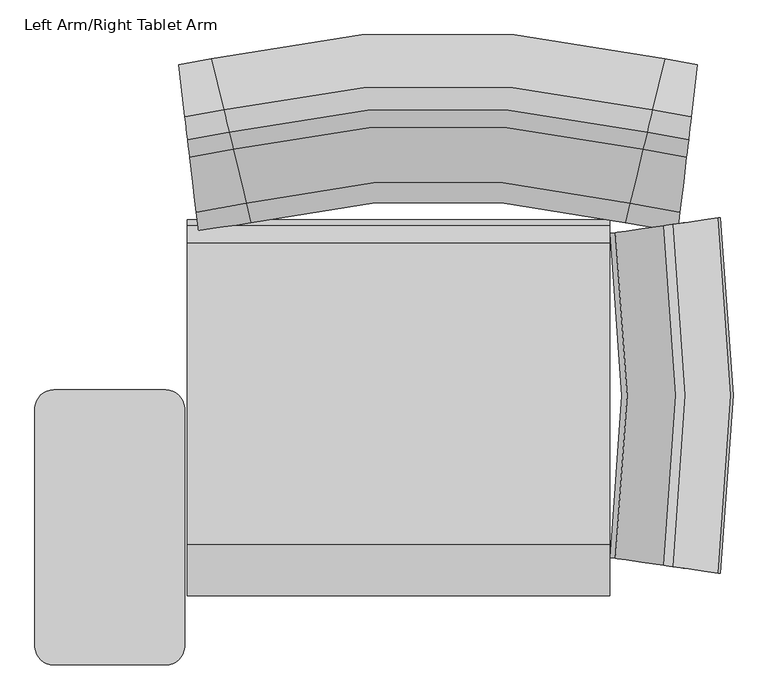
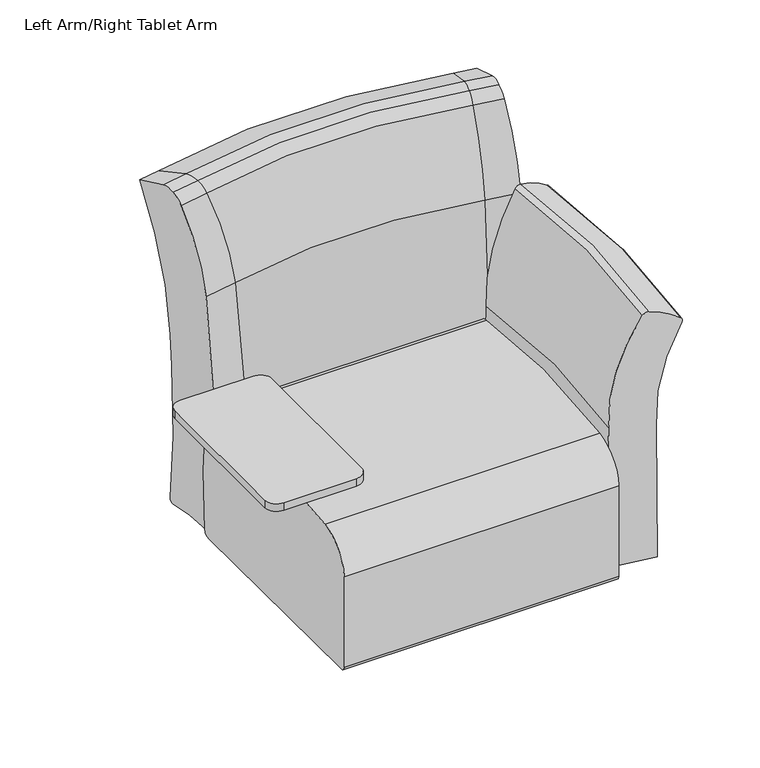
"""IFC4 building model written with IfcOpenShell, lengths in millimetres: furniture geometry, Steelcase Turnstone - Jenny - Seating - Lounge Chair : Left Arm/Right Tablet Arm."""

from ifc_helpers import new_model, si_unit, point, frame, frame_2d, origin, place, context, project, spatial, polyline, circle_curve, ellipse_curve, trimmed, segment, composite_curve, outline, extrude, source, transform, mapped, element, save
from ifc_brep_helpers import plane_surface, cylinder_surface, revolved_surface, advanced_brep


def left_arm_right_tablet_arm_aeaf191a(model_context):
    return source(origin(), model_context, "Body", "SolidModel", [
        advanced_brep(
        [(-554.4670505, 297.2440659, 612.9965223), (-581.7206583, 271.9208046, 612.9965223), (-581.7206583, -74.3072853, 612.9965223), (-554.4670505, -99.6305466, 612.9965223), (-393.0859646, -99.6305466, 612.9965223), (-365.8323568, -74.3072853, 612.9965223), (-365.8267014, 271.8444534, 612.9965223), (-393.0859646, 297.2440659, 612.9965223), (-554.4670505, 297.2446472, 595.5042034), (-393.0859646, 297.2446472, 595.5042034), (-365.8323568, 271.9208046, 595.5042034), (-365.8323568, -74.3072853, 595.5042034), (-393.0859646, -99.6305466, 595.5042034), (-554.4670505, -99.6305466, 595.5042034), (-581.7206583, -74.3072853, 595.5042034), (-581.7263138, 271.8444534, 595.5042034)],
        [
            (0, 1, circle_curve(frame((-554.4670505, 269.9168846, 612.9965223), z_axis=(0.0, 0.0, 1.0), x_axis=(0.0, 1.0, 0.0)), 27.3271812)),
            (1, 2, circle_curve(frame((1772.6599394, 98.8070503, 612.9965223), z_axis=(0.0, 0.0, 1.0), x_axis=(0.0, 1.0, 0.0)), 2360.736447)),
            (2, 3, circle_curve(frame((-554.4670505, -72.3033653, 612.9965223), z_axis=(0.0, 0.0, 1.0), x_axis=(0.0, 1.0, 0.0)), 27.3271812)),
            (3, 4),
            (4, 5, circle_curve(frame((-393.0859646, -72.3033653, 612.9965223), z_axis=(0.0, 0.0, 1.0), x_axis=(0.0, 1.0, 0.0)), 27.3271812)),
            (5, 6, circle_curve(frame((-2720.2129546, 98.8070503, 612.9965223), z_axis=(0.0, 0.0, 1.0), x_axis=(0.0, 1.0, 0.0)), 2360.736447)),
            (6, 7, circle_curve(frame((-393.0859646, 269.9168846, 612.9965223), z_axis=(0.0, 0.0, 1.0), x_axis=(0.0, 1.0, 0.0)), 27.3271812)),
            (7, 0),
            (8, 9),
            (9, 10, circle_curve(frame((-393.0859646, 269.9168846, 595.5042034), z_axis=(0.0, 0.0, -1.0), x_axis=(0.0, 1.0, 0.0)), 27.3271812)),
            (10, 11, circle_curve(frame((-2720.2129546, 98.8070503, 595.5042034), z_axis=(0.0, 0.0, -1.0), x_axis=(0.0, 1.0, 0.0)), 2360.736447)),
            (11, 12, circle_curve(frame((-393.0859646, -72.3033653, 595.5042034), z_axis=(0.0, 0.0, -1.0), x_axis=(0.0, 1.0, 0.0)), 27.3271812)),
            (12, 13),
            (13, 14, circle_curve(frame((-554.4670505, -72.3033653, 595.5042034), z_axis=(0.0, 0.0, -1.0), x_axis=(0.0, 1.0, 0.0)), 27.3271812)),
            (14, 15, circle_curve(frame((1772.6599394, 98.8070503, 595.5042034), z_axis=(0.0, 0.0, -1.0), x_axis=(0.0, 1.0, 0.0)), 2360.736447)),
            (15, 8, circle_curve(frame((-554.4670505, 269.9168846, 595.5042034), z_axis=(0.0, 0.0, -1.0), x_axis=(0.0, 1.0, 0.0)), 27.3271812)),
            (0, 8),
            (15, 1),
            (14, 2),
            (13, 3),
            (12, 4),
            (11, 5),
            (10, 6),
            (9, 7),
        ],
        [
            plane_surface(frame((-554.4670505, 297.2440659, 612.9965223), z_axis=(0.0, 0.0, 1.0), x_axis=(-1.0, 0.0, 0.0))),
            plane_surface(frame((-554.4670505, 297.2440659, 595.5042034), z_axis=(0.0, 0.0, -1.0), x_axis=(1.0, 0.0, 0.0))),
            cylinder_surface(frame((-554.4670505, 269.9168846, 595.5042034), z_axis=(0.0, 0.0, 1.0), x_axis=(0.0, 1.0, 0.0)), 27.3271812),
            cylinder_surface(frame((1772.6599394, 98.8070503, 595.5042034), z_axis=(0.0, 0.0, 1.0), x_axis=(0.0, 1.0, 0.0)), 2360.736447),
            cylinder_surface(frame((-554.4670505, -72.3033653, 595.5042034), z_axis=(0.0, 0.0, 1.0), x_axis=(0.0, 1.0, 0.0)), 27.3271812),
            plane_surface(frame((-554.4670505, -99.6305466, 612.9965223), z_axis=(0.0, -1.0, 0.0), x_axis=(0.0, 0.0, -1.0))),
            cylinder_surface(frame((-393.0859646, -72.3033653, 595.5042034), z_axis=(0.0, 0.0, 1.0), x_axis=(0.0, 1.0, 0.0)), 27.3271812),
            cylinder_surface(frame((-2720.2129546, 98.8070503, 595.5042034), z_axis=(0.0, 0.0, 1.0), x_axis=(0.0, 1.0, 0.0)), 2360.736447),
            cylinder_surface(frame((-393.0859646, 269.9168846, 595.5042034), z_axis=(0.0, 0.0, 1.0), x_axis=(0.0, 1.0, 0.0)), 27.3271812),
            plane_surface(frame((-393.0859646, 297.2446472, 612.9965223), z_axis=(0.0, 1.0, 0.0), x_axis=(0.0, 0.0, -1.0))),
        ],
        [
            (0, [[1, 2, 3, 4, 5, 6, 7, 8]]),
            (1, [[9, 10, 11, 12, 13, 14, 15, 16]]),
            (2, [[-1, 17, -16, 18]]),
            (3, [[-2, -18, -15, 19]]),
            (4, [[-3, -19, -14, 20]]),
            (5, [[-4, -20, -13, 21]]),
            (6, [[-5, -21, -12, 22]]),
            (7, [[-6, -22, -11, 23]]),
            (8, [[-7, -23, -10, 24]]),
            (9, [[-8, -24, -9, -17]]),
        ],
    ),
        extrude(outline(polyline([(-374.3402751, 106.7260437), (-487.7744904, 106.7260437), (-487.7744904, 233.7264313), (-374.3402751, 233.7264313), (-374.3402751, 106.7260437)])), frame((0.0, 0.0, 592.311266), z_axis=(0.0, 0.0, 1.0), x_axis=(1.0, 0.0, 0.0)), (0.0, 0.0, 1.0), 3.1929374),
        advanced_brep(
        [(338.5098126, 42.3528445, 662.4789574), (325.4819287, 44.2201227, 657.247673), (255.8979101, 54.1935554, 412.3486316), (248.568241, 55.2441122, 105.3934367), (268.92915, 52.3257962, 83.0261095), (356.1641561, 39.8224588, 83.0261095), (353.9234318, 40.1436204, 393.5179242), (406.2890311, 32.6380926, 620.5062548), (403.9913356, 32.9674199, 631.6323761), (338.5098126, 536.0945997, 662.4789574), (403.9913356, 545.4800243, 631.6323761), (406.2890311, 545.8093515, 620.5062548), (353.9234318, 538.3038238, 393.5179242), (356.1641561, 538.6249854, 83.0261095), (268.92915, 526.121648, 83.0261095), (248.568241, 523.203332, 105.3934367), (255.8979101, 524.2538887, 412.3486316), (325.4819287, 534.2273214, 657.247673)],
        [
            (0, 1, circle_curve(frame((335.7972968, 42.7416276, 650.2018378), z_axis=(-0.1418794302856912, -0.989883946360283, 0.0), x_axis=(-0.989883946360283, 0.1418794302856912, 0.0)), 12.5792115)),
            (1, 2, circle_curve(frame((662.6674144, -4.1084564, 426.9356418), z_axis=(-0.1418794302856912, -0.989883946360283, 0.0), x_axis=(-0.989883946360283, 0.1418794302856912, 0.0)), 411.1852807)),
            (2, 3, circle_curve(frame((-2293.785101, 419.6379839, 320.9153954), z_axis=(0.1418794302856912, 0.989883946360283, 0.0), x_axis=(-0.989883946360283, 0.1418794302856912, 0.0)), 2577.3616595)),
            (3, 4, circle_curve(frame((268.92915, 52.3257962, 103.6673891), z_axis=(-0.1418794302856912, -0.989883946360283, 0.0), x_axis=(-0.989883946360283, 0.1418794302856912, 0.0)), 20.6412796)),
            (4, 5),
            (5, 6, circle_curve(frame((-3376.7467903, 574.8581873, 210.7875713), z_axis=(-0.1418794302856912, -0.989883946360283, 0.0), x_axis=(-0.989883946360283, 0.1418794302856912, 0.0)), 3773.2228077)),
            (6, 7, circle_curve(frame((774.6383733, -20.157182, 414.1247817), z_axis=(0.1418794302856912, 0.989883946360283, 0.0), x_axis=(-0.989883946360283, 0.1418794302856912, 0.0)), 425.5136794)),
            (7, 8, circle_curve(frame((398.7600293, 33.7172196, 624.7246592), z_axis=(-0.1418794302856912, -0.989883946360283, 0.0), x_axis=(-0.989883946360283, 0.1418794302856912, 0.0)), 8.6974317)),
            (8, 0, circle_curve(frame((301.9143064, 47.5980549, 496.8440116), z_axis=(-0.1418794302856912, -0.989883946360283, 0.0), x_axis=(-0.989883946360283, 0.1418794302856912, 0.0)), 169.710573)),
            (9, 10, circle_curve(frame((301.9143064, 530.8493893, 496.8440116), z_axis=(-0.14187943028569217, 0.9898839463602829, 0.0), x_axis=(-0.9898839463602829, -0.14187943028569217, 0.0)), 169.710573)),
            (10, 11, circle_curve(frame((398.7600293, 544.7302245, 624.7246592), z_axis=(-0.14187943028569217, 0.9898839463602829, 0.0), x_axis=(-0.9898839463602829, -0.14187943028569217, 0.0)), 8.6974317)),
            (11, 12, circle_curve(frame((774.6383733, 598.6046262, 414.1247817), z_axis=(0.14187943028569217, -0.9898839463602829, 0.0), x_axis=(-0.9898839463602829, -0.14187943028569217, 0.0)), 425.5136794)),
            (12, 13, circle_curve(frame((-3376.7467903, 3.5892569, 210.7875713), z_axis=(-0.14187943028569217, 0.9898839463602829, 0.0), x_axis=(-0.9898839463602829, -0.14187943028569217, 0.0)), 3773.2228077)),
            (13, 14),
            (14, 15, circle_curve(frame((268.92915, 526.121648, 103.6673891), z_axis=(-0.14187943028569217, 0.9898839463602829, 0.0), x_axis=(-0.9898839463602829, -0.14187943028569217, 0.0)), 20.6412796)),
            (15, 16, circle_curve(frame((-2293.785101, 158.8094603, 320.9153954), z_axis=(0.14187943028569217, -0.9898839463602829, 0.0), x_axis=(-0.9898839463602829, -0.14187943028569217, 0.0)), 2577.3616595)),
            (16, 17, circle_curve(frame((662.6674144, 582.5559005, 426.9356418), z_axis=(-0.14187943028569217, 0.9898839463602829, 0.0), x_axis=(-0.9898839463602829, -0.14187943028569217, 0.0)), 411.1852807)),
            (17, 9, circle_curve(frame((335.7972968, 535.7058165, 650.2018378), z_axis=(-0.14187943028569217, 0.9898839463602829, 0.0), x_axis=(-0.9898839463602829, -0.14187943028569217, 0.0)), 12.5792115)),
            (17, 1, circle_curve(frame((-1383.8929209, 289.2237221, 657.247673), z_axis=(0.0, 0.0, -1.0), x_axis=(0.989883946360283, -0.1418794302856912, 0.0)), 1726.8436929)),
            (0, 9, circle_curve(frame((-1383.8929209, 289.2237221, 662.4789574), z_axis=(0.0, 0.0, 1.0), x_axis=(0.989883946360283, -0.1418794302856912, 0.0)), 1740.0047145)),
            (16, 2, circle_curve(frame((-1383.8929209, 289.2237221, 412.3486316), z_axis=(0.0, 0.0, -1.0), x_axis=(0.989883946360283, -0.1418794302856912, 0.0)), 1656.5485651)),
            (15, 3, circle_curve(frame((-1383.8929209, 289.2237221, 105.3934367), z_axis=(0.0, 0.0, -1.0), x_axis=(0.989883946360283, -0.1418794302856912, 0.0)), 1649.1439909)),
            (14, 4, circle_curve(frame((-1383.8929209, 289.2237221, 83.0261095), z_axis=(0.0, 0.0, -1.0), x_axis=(0.989883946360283, -0.1418794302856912, 0.0)), 1669.7129769)),
            (13, 5, circle_curve(frame((-1383.8929209, 289.2237221, 83.0261095), z_axis=(0.0, 0.0, -1.0), x_axis=(0.989883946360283, -0.1418794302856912, 0.0)), 1757.8394754)),
            (12, 6, circle_curve(frame((-1383.8929209, 289.2237221, 393.5179242), z_axis=(0.0, 0.0, -1.0), x_axis=(0.989883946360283, -0.1418794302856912, 0.0)), 1755.5758521)),
            (11, 7, circle_curve(frame((-1383.8929209, 289.2237221, 620.5062548), z_axis=(0.0, 0.0, -1.0), x_axis=(0.989883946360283, -0.1418794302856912, 0.0)), 1808.4765982)),
            (10, 8, circle_curve(frame((-1383.8929209, 289.2237221, 631.6323761), z_axis=(0.0, 0.0, -1.0), x_axis=(0.989883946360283, -0.1418794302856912, 0.0)), 1806.1554216)),
        ],
        [
            plane_surface(frame((321.793924, 44.7487221, 0.0), z_axis=(-0.14187943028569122, -0.9898839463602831, 0.0), x_axis=(0.0, 0.0, 1.0))),
            plane_surface(frame((321.793924, 533.6987221, 0.0), z_axis=(-0.1418794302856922, 0.9898839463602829, 0.0), x_axis=(0.0, 0.0, 1.0))),
            revolved_surface(trimmed(ellipse_curve(frame((335.7972968, 42.7416276, 650.2018378), z_axis=(-0.1418794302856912, -0.989883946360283, 0.0), x_axis=(-0.989883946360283, 0.1418794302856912, 0.0)), 12.5792115, 12.5792115), [point((338.5098126, 42.3528445, 662.4789574))], [point((325.4819287, 44.2201227, 657.247673))], True, "CARTESIAN"), (-1383.8929209, 289.2237221, 0.0), (0.0, 0.0, 1.0)),
            revolved_surface(trimmed(ellipse_curve(frame((662.6674144, -4.1084564, 426.9356418), z_axis=(-0.1418794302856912, -0.989883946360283, 0.0), x_axis=(-0.989883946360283, 0.1418794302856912, 0.0)), 411.1852807, 411.1852807), [point((325.4819287, 44.2201227, 657.247673))], [point((255.8979101, 54.1935554, 412.3486316))], True, "CARTESIAN"), (-1383.8929209, 289.2237221, 0.0), (0.0, 0.0, 1.0)),
            revolved_surface(trimmed(ellipse_curve(frame((-2293.785101, 419.6379839, 320.9153954), z_axis=(0.1418794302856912, 0.989883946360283, 0.0), x_axis=(-0.989883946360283, 0.1418794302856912, 0.0)), 2577.3616595, 2577.3616595), [point((255.8979101, 54.1935554, 412.3486316))], [point((248.568241, 55.2441122, 105.3934367))], True, "CARTESIAN"), (-1383.8929209, 289.2237221, 0.0), (0.0, 0.0, 1.0)),
            revolved_surface(trimmed(ellipse_curve(frame((268.92915, 52.3257962, 103.6673891), z_axis=(-0.1418794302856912, -0.989883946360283, 0.0), x_axis=(-0.989883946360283, 0.1418794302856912, 0.0)), 20.6412796, 20.6412796), [point((248.568241, 55.2441122, 105.3934367))], [point((268.92915, 52.3257962, 83.0261095))], True, "CARTESIAN"), (-1383.8929209, 289.2237221, 0.0), (0.0, 0.0, 1.0)),
            plane_surface(frame((-1383.8929209, 289.2237221, 83.0261095), z_axis=(0.0, 0.0, -1.0000000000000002), x_axis=(0.9898839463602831, -0.14187943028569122, 0.0))),
            revolved_surface(trimmed(ellipse_curve(frame((-3376.7467903, 574.8581873, 210.7875713), z_axis=(-0.1418794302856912, -0.989883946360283, 0.0), x_axis=(-0.989883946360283, 0.1418794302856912, 0.0)), 3773.2228077, 3773.2228077), [point((356.1641561, 39.8224588, 83.0261095))], [point((353.9234318, 40.1436204, 393.5179242))], True, "CARTESIAN"), (-1383.8929209, 289.2237221, 0.0), (0.0, 0.0, 1.0)),
            revolved_surface(trimmed(ellipse_curve(frame((774.6383733, -20.157182, 414.1247817), z_axis=(0.1418794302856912, 0.989883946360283, 0.0), x_axis=(-0.989883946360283, 0.1418794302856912, 0.0)), 425.5136794, 425.5136794), [point((353.9234318, 40.1436204, 393.5179242))], [point((406.2890311, 32.6380926, 620.5062548))], True, "CARTESIAN"), (-1383.8929209, 289.2237221, 0.0), (0.0, 0.0, 1.0)),
            revolved_surface(trimmed(ellipse_curve(frame((398.7600293, 33.7172196, 624.7246592), z_axis=(-0.1418794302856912, -0.989883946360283, 0.0), x_axis=(-0.989883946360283, 0.1418794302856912, 0.0)), 8.6974317, 8.6974317), [point((406.2890311, 32.6380926, 620.5062548))], [point((403.9913356, 32.9674199, 631.6323761))], True, "CARTESIAN"), (-1383.8929209, 289.2237221, 0.0), (0.0, 0.0, 1.0)),
            revolved_surface(trimmed(ellipse_curve(frame((301.9143064, 47.5980549, 496.8440116), z_axis=(-0.1418794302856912, -0.989883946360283, 0.0), x_axis=(-0.989883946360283, 0.1418794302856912, 0.0)), 169.710573, 169.710573), [point((403.9913356, 32.9674199, 631.6323761))], [point((338.5098126, 42.3528445, 662.4789574))], True, "CARTESIAN"), (-1383.8929209, 289.2237221, 0.0), (0.0, 0.0, 1.0)),
        ],
        [
            (0, [[1, 2, 3, 4, 5, 6, 7, 8, 9]]),
            (1, [[10, 11, 12, 13, 14, 15, 16, 17, 18]]),
            (2, [[19, -1, 20, -18]]),
            (3, [[21, -2, -19, -17]]),
            (4, [[22, -3, -21, -16]]),
            (5, [[23, -4, -22, -15]]),
            (6, [[24, -5, -23, -14]]),
            (7, [[25, -6, -24, -13]]),
            (8, [[26, -7, -25, -12]]),
            (9, [[27, -8, -26, -11]]),
            (10, [[-20, -9, -27, -10]]),
        ],
    ),
        extrude(outline(composite_curve([segment(trimmed(circle_curve(frame_2d((295.9448235, -1001.9734672)), 1409.8455938), [point((73.6948235, 390.2440215))], [point((509.3958902, 391.6201753))], False, "CARTESIAN"), True, "CONTINUOUS"), segment(trimmed(circle_curve(frame_2d((504.9855283, 362.825509)), 29.1304669), [point((509.3958902, 391.6201753))], [point((533.8942756, 366.4127691))], False, "CARTESIAN"), True, "CONTINUOUS"), segment(trimmed(circle_curve(frame_2d((-629.8512072, 222.0046519)), 1172.6709909), [point((533.8942756, 366.4127691))], [point((536.0042378, 95.7575362))], False, "CARTESIAN"), True, "CONTINUOUS"), segment(trimmed(circle_curve(frame_2d((523.173628, 97.1469259)), 12.9056171), [point((536.0042378, 95.7575362))], [point((523.4804674, 84.244957))], False, "CARTESIAN"), True, "CONTINUOUS"), segment(trimmed(circle_curve(frame_2d((320.8347088, 8605.0850806)), 8523.249481), [point((523.4804674, 84.244957))], [point((12.6556229, 87.4089088))], False, "CARTESIAN"), True, "CONTINUOUS"), segment(trimmed(circle_curve(frame_2d((13.132469, 100.5883266)), 13.1880413), [point((12.6556229, 87.4089088))], [point((0.0, 99.3789084))], False, "CARTESIAN"), True, "CONTINUOUS"), segment(trimmed(circle_curve(frame_2d((1151.5533041, 205.4297595)), 1156.4263034), [point((0.0, 99.3789084))], [point((0.0, 311.4806107))], False, "CARTESIAN"), True, "CONTINUOUS"), segment(trimmed(circle_curve(frame_2d((87.555619, 303.4172862)), 87.9261259), [point((0.0, 311.4806107))], [point((73.6948235, 390.2440215))], False, "CARTESIAN"), True, "CONTINUOUS")], self_intersect=False)), frame((-361.95, 0.0, 0.0), z_axis=(1.0, 0.0, 0.0), x_axis=(0.0, 1.0, 0.0)), (0.0, 0.0, 1.0), 609.6),
        advanced_brep(
        [(-365.286616, 691.4565759, 813.9027777), (-374.1581434, 766.5452606, 782.2939395), (-362.648411, 669.1267858, 474.5451921), (-361.9534589, 663.244705, 404.1661408), (-361.3770167, 658.3656933, 241.4197302), (-362.6146384, 668.8409343, 92.210125), (-361.3954165, 658.5214293, 82.3084573), (-349.0009614, 553.6146536, 81.9987921), (-346.7002803, 534.1416683, 97.0710008), (-349.0142051, 553.7267481, 627.8736036), (-358.4008193, 633.1751322, 797.7221008), (-361.3730638, 658.3322355, 814.4538477), (-326.9667617, 774.979302, 782.2939395), (-309.2801577, 701.4660474, 813.9027777), (-304.020535, 679.604757, 474.5451921), (-302.6350528, 673.8460877, 404.1661408), (-301.4858364, 669.0694421, 241.4197302), (-303.9532047, 679.3249029, 92.210125), (-301.5225189, 669.2219106, 82.3084573), (-276.8124763, 566.5161761, 81.9987921), (-272.2257535, 547.451752, 97.0710008), (-276.8388793, 566.6259188, 627.8736036), (-295.5523794, 644.4074023, 797.7221008), (-301.4779556, 669.0366863, 814.4538477), (326.9667617, 774.979302, 782.2939395), (309.2801577, 701.4660474, 813.9027777), (304.020535, 679.604757, 474.5451921), (302.6350528, 673.8460877, 404.1661408), (301.4858364, 669.0694421, 241.4197302), (303.9532047, 679.3249029, 92.210125), (301.5225189, 669.2219106, 82.3084573), (276.8124763, 566.5161761, 81.9987921), (272.2257535, 547.451752, 97.0710008), (276.8388793, 566.6259188, 627.8736036), (295.5523794, 644.4074023, 797.7221008), (301.4779556, 669.0366863, 814.4538477), (365.286616, 691.4565759, 813.9027777), (361.3730638, 658.3322355, 814.4538477), (358.4008193, 633.1751322, 797.7221008), (349.0142051, 553.7267481, 627.8736036), (346.7002803, 534.1416683, 97.0710008), (349.0009614, 553.6146536, 81.9987921), (361.3954165, 658.5214293, 82.3084573), (362.6146384, 668.8409343, 92.210125), (361.3770167, 658.3656933, 241.4197302), (361.9534589, 663.244705, 404.1661408), (362.648411, 669.1267858, 474.5451921), (374.1581434, 766.5452606, 782.2939395)],
        [
            (0, 1, circle_curve(frame((-341.1261096, 486.9618391, 215.0940543), z_axis=(-0.9930928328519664, -0.11733126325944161, 0.0), x_axis=(-0.11733126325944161, 0.9930928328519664, 0.0)), 633.2248531)),
            (1, 2, circle_curve(frame((-441.9489126, 1340.3269208, 428.618251), z_axis=(0.9930928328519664, 0.11733126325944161, 0.0), x_axis=(-0.11733126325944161, 0.9930928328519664, 0.0)), 677.4270991)),
            (2, 3, circle_curve(frame((-106.0716484, -1502.5411649, 623.1418041), z_axis=(-0.9930928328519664, -0.11733126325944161, 0.0), x_axis=(-0.11733126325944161, 0.9930928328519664, 0.0)), 2191.8152925)),
            (3, 4, circle_curve(frame((-498.0432857, 1815.1101831, 287.7047166), z_axis=(0.9930928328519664, 0.11733126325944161, 0.0), x_axis=(-0.11733126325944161, 0.9930928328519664, 0.0)), 1165.7091335)),
            (4, 5, circle_curve(frame((-645.5581159, 3063.6769889, 337.6638027), z_axis=(0.9930928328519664, 0.11733126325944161, 0.0), x_axis=(-0.11733126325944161, 0.9930928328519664, 0.0)), 2423.9521958)),
            (5, 6, circle_curve(frame((-361.5543466, 659.8666153, 91.290321), z_axis=(-0.9930928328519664, -0.11733126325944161, 0.0), x_axis=(-0.11733126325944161, 0.9930928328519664, 0.0)), 9.0834278)),
            (6, 7, circle_curve(frame((-355.3163018, 607.0677497, -261.2499371), z_axis=(0.9930928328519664, 0.11733126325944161, 0.0), x_axis=(-0.11733126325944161, 0.9930928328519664, 0.0)), 347.443243)),
            (7, 8, circle_curve(frame((-348.6908883, 550.9901919, 98.8517567), z_axis=(-0.9930928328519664, -0.11733126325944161, 0.0), x_axis=(-0.11733126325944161, 0.9930928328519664, 0.0)), 17.0589085)),
            (8, 9, circle_curve(frame((-566.1189152, 2391.3029031, 293.3582769), z_axis=(-0.9930928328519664, -0.11733126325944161, 0.0), x_axis=(-0.11733126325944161, 0.9930928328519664, 0.0)), 1880.3513194)),
            (9, 10, circle_curve(frame((-390.9633635, 908.7847898, 563.2382651), z_axis=(-0.9930928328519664, -0.11733126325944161, 0.0), x_axis=(-0.11733126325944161, 0.9930928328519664, 0.0)), 363.3230957)),
            (10, 11, circle_curve(frame((-363.2305214, 674.0537729, 762.9432742), z_axis=(-0.9930928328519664, -0.11733126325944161, 0.0), x_axis=(-0.11733126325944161, 0.9930928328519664, 0.0)), 53.8883667)),
            (11, 0, circle_curve(frame((-363.2305214, 674.0537729, 762.9432742), z_axis=(-0.9930928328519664, -0.11733126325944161, 0.0), x_axis=(-0.11733126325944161, 0.9930928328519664, 0.0)), 53.8883667)),
            (12, 1, circle_curve(frame((-421.6517332, 1168.5314176, 782.2939395), z_axis=(0.0, 0.0, -1.0), x_axis=(0.1173312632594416, -0.9930928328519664, 0.0)), 404.7820543)),
            (0, 13, circle_curve(frame((-421.6517332, 1168.5314176, 813.9027777), z_axis=(0.0, 0.0, 1.0), x_axis=(0.1173312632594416, -0.9930928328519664, 0.0)), 480.3929964)),
            (13, 12, circle_curve(frame((-261.1128813, 501.2617994, 215.0940543), z_axis=(-0.9722568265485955, -0.23391593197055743, 0.0), x_axis=(-0.23391593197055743, 0.9722568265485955, 0.0)), 633.2248531)),
            (14, 2, circle_curve(frame((-421.6517332, 1168.5314176, 474.5451921), z_axis=(0.0, 0.0, -1.0), x_axis=(0.1173312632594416, -0.9930928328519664, 0.0)), 502.8780948)),
            (12, 14, circle_curve(frame((-462.1169383, 1336.7224922, 428.618251), z_axis=(0.9722568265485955, 0.23391593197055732, 0.0), x_axis=(-0.23391593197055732, 0.9722568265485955, 0.0)), 677.4270991)),
            (15, 3, circle_curve(frame((-421.6517332, 1168.5314176, 404.1661408), z_axis=(0.0, 0.0, -1.0), x_axis=(0.1173312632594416, -0.9930928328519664, 0.0)), 508.8010867)),
            (14, 15, circle_curve(frame((207.500358, -1446.4995912, 623.1418041), z_axis=(-0.9722568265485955, -0.2339159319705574, 0.0), x_axis=(-0.2339159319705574, 0.9722568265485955, 0.0)), 2191.8152925)),
            (16, 4, circle_curve(frame((-421.6517332, 1168.5314176, 241.4197302), z_axis=(0.0, 0.0, -1.0), x_axis=(0.1173312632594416, -0.9930928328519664, 0.0)), 513.714033)),
            (15, 16, circle_curve(frame((-573.9487486, 1801.5443625, 287.7047166), z_axis=(0.9722568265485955, 0.23391593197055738, 0.0), x_axis=(-0.23391593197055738, 0.9722568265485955, 0.0)), 1165.7091335)),
            (17, 5, circle_curve(frame((-421.6517332, 1168.5314176, 92.210125), z_axis=(0.0, 0.0, -1.0), x_axis=(0.1173312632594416, -0.9930928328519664, 0.0)), 503.1659344)),
            (16, 17, circle_curve(frame((-868.0397524, 3023.9150817, 337.6638027), z_axis=(0.9722568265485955, 0.2339159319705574, 0.0), x_axis=(-0.2339159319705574, 0.9722568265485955, 0.0)), 2423.9521958)),
            (18, 6, circle_curve(frame((-421.6517332, 1168.5314176, 82.3084573), z_axis=(0.0, 0.0, -1.0), x_axis=(0.1173312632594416, -0.9930928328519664, 0.0)), 513.5572138)),
            (17, 18, circle_curve(frame((-301.8393678, 670.5388734, 91.290321), z_axis=(-0.9722568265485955, -0.23391593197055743, 0.0), x_axis=(-0.23391593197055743, 0.9722568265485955, 0.0)), 9.0834278)),
            (19, 7, circle_curve(frame((-421.6517332, 1168.5314176, 81.9987921), z_axis=(0.0, 0.0, -1.0), x_axis=(0.1173312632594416, -0.9930928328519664, 0.0)), 619.193638)),
            (18, 19, circle_curve(frame((-289.4029717, 618.8477768, -261.2499371), z_axis=(0.9722568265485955, 0.2339159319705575, 0.0), x_axis=(-0.2339159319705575, 0.9722568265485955, 0.0)), 347.443243)),
            (20, 8, circle_curve(frame((-421.6517332, 1168.5314176, 97.0710008), z_axis=(0.0, 0.0, -1.0), x_axis=(0.1173312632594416, -0.9930928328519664, 0.0)), 638.8020619)),
            (19, 20, circle_curve(frame((-276.194303, 563.9467781, 98.8517567), z_axis=(-0.9722568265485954, -0.23391593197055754, 0.0), x_axis=(-0.23391593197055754, 0.9722568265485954, 0.0)), 17.0589085)),
            (21, 9, circle_curve(frame((-421.6517332, 1168.5314176, 627.8736036), z_axis=(0.0, 0.0, -1.0), x_axis=(0.1173312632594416, -0.9930928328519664, 0.0)), 619.0807637)),
            (20, 21, circle_curve(frame((-709.6668332, 2365.6480262, 293.3582769), z_axis=(-0.9722568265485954, -0.23391593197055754, 0.0), x_axis=(-0.23391593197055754, 0.9722568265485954, 0.0)), 1880.3513194)),
            (22, 10, circle_curve(frame((-421.6517332, 1168.5314176, 797.7221008), z_axis=(0.0, 0.0, -1.0), x_axis=(0.1173312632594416, -0.9930928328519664, 0.0)), 539.0797997)),
            (21, 22, circle_curve(frame((-360.4702681, 914.2345144, 563.2382651), z_axis=(-0.9722568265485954, -0.23391593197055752, 0.0), x_axis=(-0.23391593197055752, 0.9722568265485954, 0.0)), 363.3230957)),
            (23, 11, circle_curve(frame((-421.6517332, 1168.5314176, 814.4538477), z_axis=(0.0, 0.0, -1.0), x_axis=(0.1173312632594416, -0.9930928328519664, 0.0)), 513.7477235)),
            (22, 23, circle_curve(frame((-305.1810516, 684.4283713, 762.9432742), z_axis=(-0.9722568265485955, -0.2339159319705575, 0.0), x_axis=(-0.2339159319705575, 0.9722568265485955, 0.0)), 53.8883667)),
            (23, 13, circle_curve(frame((-305.1810516, 684.4283713, 762.9432742), z_axis=(-0.9722568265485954, -0.23391593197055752, 0.0), x_axis=(-0.23391593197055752, 0.9722568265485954, 0.0)), 53.8883667)),
            (24, 12, circle_curve(frame((0.0, -584.0374329, 782.2939395), z_axis=(0.0, 0.0, 1.0), x_axis=(-0.23391593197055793, 0.9722568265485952, 0.0)), 1397.7960327)),
            (13, 25, circle_curve(frame((0.0, -584.0374329, 813.9027777), z_axis=(0.0, 0.0, -1.0), x_axis=(-0.23391593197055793, 0.9722568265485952, 0.0)), 1322.1850906)),
            (25, 24, circle_curve(frame((261.1128813, 501.2617994, 215.0940543), z_axis=(-0.9722568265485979, 0.23391593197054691, 0.0), x_axis=(0.23391593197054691, 0.9722568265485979, 0.0)), 633.2248531)),
            (26, 14, circle_curve(frame((0.0, -584.0374329, 474.5451921), z_axis=(0.0, 0.0, 1.0), x_axis=(-0.23391593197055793, 0.9722568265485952, 0.0)), 1299.6999922)),
            (24, 26, circle_curve(frame((462.1169383, 1336.7224922, 428.618251), z_axis=(0.9722568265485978, -0.23391593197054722, 0.0), x_axis=(0.23391593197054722, 0.9722568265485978, 0.0)), 677.4270991)),
            (27, 15, circle_curve(frame((0.0, -584.0374329, 404.1661408), z_axis=(0.0, 0.0, 1.0), x_axis=(-0.23391593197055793, 0.9722568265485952, 0.0)), 1293.7770003)),
            (26, 27, circle_curve(frame((-207.500358, -1446.4995912, 623.1418041), z_axis=(-0.9722568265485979, 0.23391593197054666, 0.0), x_axis=(0.23391593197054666, 0.9722568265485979, 0.0)), 2191.8152925)),
            (28, 16, circle_curve(frame((0.0, -584.0374329, 241.4197302), z_axis=(0.0, 0.0, 1.0), x_axis=(-0.23391593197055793, 0.9722568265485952, 0.0)), 1288.864054)),
            (27, 28, circle_curve(frame((573.9487486, 1801.5443625, 287.7047166), z_axis=(0.9722568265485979, -0.23391593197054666, 0.0), x_axis=(0.23391593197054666, 0.9722568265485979, 0.0)), 1165.7091335)),
            (29, 17, circle_curve(frame((0.0, -584.0374329, 92.210125), z_axis=(0.0, 0.0, 1.0), x_axis=(-0.23391593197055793, 0.9722568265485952, 0.0)), 1299.4121525)),
            (28, 29, circle_curve(frame((868.0397524, 3023.9150817, 337.6638027), z_axis=(0.9722568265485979, -0.23391593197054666, 0.0), x_axis=(0.23391593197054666, 0.9722568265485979, 0.0)), 2423.9521958)),
            (30, 18, circle_curve(frame((0.0, -584.0374329, 82.3084573), z_axis=(0.0, 0.0, 1.0), x_axis=(-0.23391593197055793, 0.9722568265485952, 0.0)), 1289.0208732)),
            (29, 30, circle_curve(frame((301.8393678, 670.5388734, 91.290321), z_axis=(-0.9722568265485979, 0.23391593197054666, 0.0), x_axis=(0.23391593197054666, 0.9722568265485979, 0.0)), 9.0834278)),
            (31, 19, circle_curve(frame((0.0, -584.0374329, 81.9987921), z_axis=(0.0, 0.0, 1.0), x_axis=(-0.23391593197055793, 0.9722568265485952, 0.0)), 1183.384449)),
            (30, 31, circle_curve(frame((289.4029717, 618.8477768, -261.2499371), z_axis=(0.9722568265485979, -0.23391593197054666, 0.0), x_axis=(0.23391593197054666, 0.9722568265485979, 0.0)), 347.443243)),
            (32, 20, circle_curve(frame((0.0, -584.0374329, 97.0710008), z_axis=(0.0, 0.0, 1.0), x_axis=(-0.23391593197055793, 0.9722568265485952, 0.0)), 1163.776025)),
            (31, 32, circle_curve(frame((276.194303, 563.9467781, 98.8517567), z_axis=(-0.9722568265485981, 0.23391593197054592, 0.0), x_axis=(0.23391593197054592, 0.9722568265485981, 0.0)), 17.0589085)),
            (33, 21, circle_curve(frame((0.0, -584.0374329, 627.8736036), z_axis=(0.0, 0.0, 1.0), x_axis=(-0.23391593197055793, 0.9722568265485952, 0.0)), 1183.4973232)),
            (32, 33, circle_curve(frame((709.6668332, 2365.6480262, 293.3582769), z_axis=(-0.9722568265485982, 0.23391593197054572, 0.0), x_axis=(0.23391593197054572, 0.9722568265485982, 0.0)), 1880.3513194)),
            (34, 22, circle_curve(frame((0.0, -584.0374329, 797.7221008), z_axis=(0.0, 0.0, 1.0), x_axis=(-0.23391593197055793, 0.9722568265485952, 0.0)), 1263.4982873)),
            (33, 34, circle_curve(frame((360.4702681, 914.2345144, 563.2382651), z_axis=(-0.9722568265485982, 0.2339159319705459, 0.0), x_axis=(0.2339159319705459, 0.9722568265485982, 0.0)), 363.3230957)),
            (35, 23, circle_curve(frame((0.0, -584.0374329, 814.4538477), z_axis=(0.0, 0.0, 1.0), x_axis=(-0.23391593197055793, 0.9722568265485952, 0.0)), 1288.8303635)),
            (34, 35, circle_curve(frame((305.1810516, 684.4283713, 762.9432742), z_axis=(-0.972256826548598, 0.23391593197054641, 0.0), x_axis=(0.23391593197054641, 0.972256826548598, 0.0)), 53.8883667)),
            (35, 25, circle_curve(frame((305.1810516, 684.4283713, 762.9432742), z_axis=(-0.972256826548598, 0.23391593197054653, 0.0), x_axis=(0.23391593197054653, 0.972256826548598, 0.0)), 53.8883667)),
            (36, 37, circle_curve(frame((363.2305214, 674.0537729, 762.9432742), z_axis=(0.9930928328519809, -0.11733126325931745, 0.0), x_axis=(0.11733126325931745, 0.9930928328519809, 0.0)), 53.8883667)),
            (37, 38, circle_curve(frame((363.2305214, 674.0537729, 762.9432742), z_axis=(0.9930928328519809, -0.11733126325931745, 0.0), x_axis=(0.11733126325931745, 0.9930928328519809, 0.0)), 53.8883667)),
            (38, 39, circle_curve(frame((390.9633635, 908.7847898, 563.2382651), z_axis=(0.9930928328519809, -0.11733126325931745, 0.0), x_axis=(0.11733126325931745, 0.9930928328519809, 0.0)), 363.3230957)),
            (39, 40, circle_curve(frame((566.1189152, 2391.3029031, 293.3582769), z_axis=(0.9930928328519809, -0.11733126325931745, 0.0), x_axis=(0.11733126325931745, 0.9930928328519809, 0.0)), 1880.3513194)),
            (40, 41, circle_curve(frame((348.6908883, 550.9901919, 98.8517567), z_axis=(0.9930928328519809, -0.11733126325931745, 0.0), x_axis=(0.11733126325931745, 0.9930928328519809, 0.0)), 17.0589085)),
            (41, 42, circle_curve(frame((355.3163018, 607.0677497, -261.2499371), z_axis=(-0.9930928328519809, 0.11733126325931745, 0.0), x_axis=(0.11733126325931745, 0.9930928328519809, 0.0)), 347.443243)),
            (42, 43, circle_curve(frame((361.5543466, 659.8666153, 91.290321), z_axis=(0.9930928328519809, -0.11733126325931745, 0.0), x_axis=(0.11733126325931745, 0.9930928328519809, 0.0)), 9.0834278)),
            (43, 44, circle_curve(frame((645.5581159, 3063.6769889, 337.6638027), z_axis=(-0.9930928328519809, 0.11733126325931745, 0.0), x_axis=(0.11733126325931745, 0.9930928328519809, 0.0)), 2423.9521958)),
            (44, 45, circle_curve(frame((498.0432857, 1815.1101831, 287.7047166), z_axis=(-0.9930928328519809, 0.11733126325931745, 0.0), x_axis=(0.11733126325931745, 0.9930928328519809, 0.0)), 1165.7091335)),
            (45, 46, circle_curve(frame((106.0716484, -1502.5411649, 623.1418041), z_axis=(0.9930928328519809, -0.11733126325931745, 0.0), x_axis=(0.11733126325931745, 0.9930928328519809, 0.0)), 2191.8152925)),
            (46, 47, circle_curve(frame((441.9489126, 1340.3269208, 428.618251), z_axis=(-0.9930928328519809, 0.11733126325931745, 0.0), x_axis=(0.11733126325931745, 0.9930928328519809, 0.0)), 677.4270991)),
            (47, 36, circle_curve(frame((341.1261096, 486.9618391, 215.0940543), z_axis=(0.9930928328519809, -0.11733126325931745, 0.0), x_axis=(0.11733126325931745, 0.9930928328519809, 0.0)), 633.2248531)),
            (47, 24, circle_curve(frame((421.6517332, 1168.5314176, 782.2939395), z_axis=(0.0, 0.0, -1.0), x_axis=(-0.2339159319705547, -0.972256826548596, 0.0)), 404.7820543)),
            (25, 36, circle_curve(frame((421.6517332, 1168.5314176, 813.9027777), z_axis=(0.0, 0.0, 1.0), x_axis=(-0.2339159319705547, -0.972256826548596, 0.0)), 480.3929964)),
            (46, 26, circle_curve(frame((421.6517332, 1168.5314176, 474.5451921), z_axis=(0.0, 0.0, -1.0), x_axis=(-0.2339159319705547, -0.972256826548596, 0.0)), 502.8780948)),
            (45, 27, circle_curve(frame((421.6517332, 1168.5314176, 404.1661408), z_axis=(0.0, 0.0, -1.0), x_axis=(-0.2339159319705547, -0.972256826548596, 0.0)), 508.8010867)),
            (44, 28, circle_curve(frame((421.6517332, 1168.5314176, 241.4197302), z_axis=(0.0, 0.0, -1.0), x_axis=(-0.2339159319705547, -0.972256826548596, 0.0)), 513.714033)),
            (43, 29, circle_curve(frame((421.6517332, 1168.5314176, 92.210125), z_axis=(0.0, 0.0, -1.0), x_axis=(-0.2339159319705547, -0.972256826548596, 0.0)), 503.1659344)),
            (42, 30, circle_curve(frame((421.6517332, 1168.5314176, 82.3084573), z_axis=(0.0, 0.0, -1.0), x_axis=(-0.2339159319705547, -0.972256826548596, 0.0)), 513.5572138)),
            (41, 31, circle_curve(frame((421.6517332, 1168.5314176, 81.9987921), z_axis=(0.0, 0.0, -1.0), x_axis=(-0.2339159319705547, -0.972256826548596, 0.0)), 619.193638)),
            (40, 32, circle_curve(frame((421.6517332, 1168.5314176, 97.0710008), z_axis=(0.0, 0.0, -1.0), x_axis=(-0.2339159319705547, -0.972256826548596, 0.0)), 638.8020619)),
            (39, 33, circle_curve(frame((421.6517332, 1168.5314176, 627.8736036), z_axis=(0.0, 0.0, -1.0), x_axis=(-0.2339159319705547, -0.972256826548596, 0.0)), 619.0807637)),
            (38, 34, circle_curve(frame((421.6517332, 1168.5314176, 797.7221008), z_axis=(0.0, 0.0, -1.0), x_axis=(-0.2339159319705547, -0.972256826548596, 0.0)), 539.0797997)),
            (37, 35, circle_curve(frame((421.6517332, 1168.5314176, 814.4538477), z_axis=(0.0, 0.0, -1.0), x_axis=(-0.2339159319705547, -0.972256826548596, 0.0)), 513.7477235)),
        ],
        [
            plane_surface(frame((-355.6, 609.4689735, 0.0), z_axis=(-0.9930928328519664, -0.11733126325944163, 0.0), x_axis=(0.0, 0.0, 1.0))),
            revolved_surface(trimmed(ellipse_curve(frame((-341.1261096, 486.9618391, 215.0940543), z_axis=(-0.9930928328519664, -0.11733126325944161, 0.0), x_axis=(-0.11733126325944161, 0.9930928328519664, 0.0)), 633.2248531, 633.2248531), [point((-365.286616, 691.4565759, 813.9027777))], [point((-374.1581434, 766.5452606, 782.2939395))], True, "CARTESIAN"), (-421.6517332, 1168.5314176, 0.0), (0.0, 0.0, 1.0)),
            revolved_surface(trimmed(ellipse_curve(frame((-441.9489126, 1340.3269208, 428.618251), z_axis=(0.9930928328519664, 0.11733126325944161, 0.0), x_axis=(-0.11733126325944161, 0.9930928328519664, 0.0)), 677.4270991, 677.4270991), [point((-374.1581434, 766.5452606, 782.2939395))], [point((-362.648411, 669.1267858, 474.5451921))], True, "CARTESIAN"), (-421.6517332, 1168.5314176, 0.0), (0.0, 0.0, 1.0)),
            revolved_surface(trimmed(ellipse_curve(frame((-106.0716484, -1502.5411649, 623.1418041), z_axis=(-0.9930928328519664, -0.11733126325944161, 0.0), x_axis=(-0.11733126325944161, 0.9930928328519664, 0.0)), 2191.8152925, 2191.8152925), [point((-362.648411, 669.1267858, 474.5451921))], [point((-361.9534589, 663.244705, 404.1661408))], True, "CARTESIAN"), (-421.6517332, 1168.5314176, 0.0), (0.0, 0.0, 1.0)),
            revolved_surface(trimmed(ellipse_curve(frame((-498.0432857, 1815.1101831, 287.7047166), z_axis=(0.9930928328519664, 0.11733126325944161, 0.0), x_axis=(-0.11733126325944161, 0.9930928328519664, 0.0)), 1165.7091335, 1165.7091335), [point((-361.9534589, 663.244705, 404.1661408))], [point((-361.3770167, 658.3656933, 241.4197302))], True, "CARTESIAN"), (-421.6517332, 1168.5314176, 0.0), (0.0, 0.0, 1.0)),
            revolved_surface(trimmed(ellipse_curve(frame((-645.5581159, 3063.6769889, 337.6638027), z_axis=(0.9930928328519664, 0.11733126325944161, 0.0), x_axis=(-0.11733126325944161, 0.9930928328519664, 0.0)), 2423.9521958, 2423.9521958), [point((-361.3770167, 658.3656933, 241.4197302))], [point((-362.6146384, 668.8409343, 92.210125))], True, "CARTESIAN"), (-421.6517332, 1168.5314176, 0.0), (0.0, 0.0, 1.0)),
            revolved_surface(trimmed(ellipse_curve(frame((-361.5543466, 659.8666153, 91.290321), z_axis=(-0.9930928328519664, -0.11733126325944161, 0.0), x_axis=(-0.11733126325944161, 0.9930928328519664, 0.0)), 9.0834278, 9.0834278), [point((-362.6146384, 668.8409343, 92.210125))], [point((-361.3954165, 658.5214293, 82.3084573))], True, "CARTESIAN"), (-421.6517332, 1168.5314176, 0.0), (0.0, 0.0, 1.0)),
            revolved_surface(trimmed(ellipse_curve(frame((-355.3163018, 607.0677497, -261.2499371), z_axis=(0.9930928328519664, 0.11733126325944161, 0.0), x_axis=(-0.11733126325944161, 0.9930928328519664, 0.0)), 347.443243, 347.443243), [point((-361.3954165, 658.5214293, 82.3084573))], [point((-349.0009614, 553.6146536, 81.9987921))], True, "CARTESIAN"), (-421.6517332, 1168.5314176, 0.0), (0.0, 0.0, 1.0)),
            revolved_surface(trimmed(ellipse_curve(frame((-348.6908883, 550.9901919, 98.8517567), z_axis=(-0.9930928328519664, -0.11733126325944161, 0.0), x_axis=(-0.11733126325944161, 0.9930928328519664, 0.0)), 17.0589085, 17.0589085), [point((-349.0009614, 553.6146536, 81.9987921))], [point((-346.7002803, 534.1416683, 97.0710008))], True, "CARTESIAN"), (-421.6517332, 1168.5314176, 0.0), (0.0, 0.0, 1.0)),
            revolved_surface(trimmed(ellipse_curve(frame((-566.1189152, 2391.3029031, 293.3582769), z_axis=(-0.9930928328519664, -0.11733126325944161, 0.0), x_axis=(-0.11733126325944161, 0.9930928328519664, 0.0)), 1880.3513194, 1880.3513194), [point((-346.7002803, 534.1416683, 97.0710008))], [point((-349.0142051, 553.7267481, 627.8736036))], True, "CARTESIAN"), (-421.6517332, 1168.5314176, 0.0), (0.0, 0.0, 1.0)),
            revolved_surface(trimmed(ellipse_curve(frame((-390.9633635, 908.7847898, 563.2382651), z_axis=(-0.9930928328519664, -0.11733126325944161, 0.0), x_axis=(-0.11733126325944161, 0.9930928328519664, 0.0)), 363.3230957, 363.3230957), [point((-349.0142051, 553.7267481, 627.8736036))], [point((-358.4008193, 633.1751322, 797.7221008))], True, "CARTESIAN"), (-421.6517332, 1168.5314176, 0.0), (0.0, 0.0, 1.0)),
            revolved_surface(trimmed(ellipse_curve(frame((-363.2305214, 674.0537729, 762.9432742), z_axis=(-0.9930928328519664, -0.11733126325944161, 0.0), x_axis=(-0.11733126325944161, 0.9930928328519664, 0.0)), 53.8883667, 53.8883667), [point((-358.4008193, 633.1751322, 797.7221008))], [point((-361.3730638, 658.3322355, 814.4538477))], True, "CARTESIAN"), (-421.6517332, 1168.5314176, 0.0), (0.0, 0.0, 1.0)),
            revolved_surface(trimmed(ellipse_curve(frame((-363.2305214, 674.0537729, 762.9432742), z_axis=(-0.9930928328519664, -0.11733126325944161, 0.0), x_axis=(-0.11733126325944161, 0.9930928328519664, 0.0)), 53.8883667, 53.8883667), [point((-361.3730638, 658.3322355, 814.4538477))], [point((-365.286616, 691.4565759, 813.9027777))], True, "CARTESIAN"), (-421.6517332, 1168.5314176, 0.0), (0.0, 0.0, 1.0)),
            revolved_surface(trimmed(ellipse_curve(frame((-261.1128813, 501.2617994, 215.0940543), z_axis=(-0.9722568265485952, -0.23391593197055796, 0.0), x_axis=(-0.23391593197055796, 0.9722568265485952, 0.0)), 633.2248531, 633.2248531), [point((-309.2801577, 701.4660474, 813.9027777))], [point((-326.9667617, 774.979302, 782.2939395))], True, "CARTESIAN"), (0.0, -584.0374329, 0.0), (0.0, 0.0, -1.0)),
            revolved_surface(trimmed(ellipse_curve(frame((-462.1169383, 1336.7224922, 428.618251), z_axis=(0.9722568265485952, 0.23391593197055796, 0.0), x_axis=(-0.23391593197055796, 0.9722568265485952, 0.0)), 677.4270991, 677.4270991), [point((-326.9667617, 774.979302, 782.2939395))], [point((-304.020535, 679.604757, 474.5451921))], True, "CARTESIAN"), (0.0, -584.0374329, 0.0), (0.0, 0.0, -1.0)),
            revolved_surface(trimmed(ellipse_curve(frame((207.500358, -1446.4995912, 623.1418041), z_axis=(-0.9722568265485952, -0.23391593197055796, 0.0), x_axis=(-0.23391593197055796, 0.9722568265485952, 0.0)), 2191.8152925, 2191.8152925), [point((-304.020535, 679.604757, 474.5451921))], [point((-302.6350528, 673.8460877, 404.1661408))], True, "CARTESIAN"), (0.0, -584.0374329, 0.0), (0.0, 0.0, -1.0)),
            revolved_surface(trimmed(ellipse_curve(frame((-573.9487486, 1801.5443625, 287.7047166), z_axis=(0.9722568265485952, 0.23391593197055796, 0.0), x_axis=(-0.23391593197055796, 0.9722568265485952, 0.0)), 1165.7091335, 1165.7091335), [point((-302.6350528, 673.8460877, 404.1661408))], [point((-301.4858364, 669.0694421, 241.4197302))], True, "CARTESIAN"), (0.0, -584.0374329, 0.0), (0.0, 0.0, -1.0)),
            revolved_surface(trimmed(ellipse_curve(frame((-868.0397524, 3023.9150817, 337.6638027), z_axis=(0.9722568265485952, 0.23391593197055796, 0.0), x_axis=(-0.23391593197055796, 0.9722568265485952, 0.0)), 2423.9521958, 2423.9521958), [point((-301.4858364, 669.0694421, 241.4197302))], [point((-303.9532047, 679.3249029, 92.210125))], True, "CARTESIAN"), (0.0, -584.0374329, 0.0), (0.0, 0.0, -1.0)),
            revolved_surface(trimmed(ellipse_curve(frame((-301.8393678, 670.5388734, 91.290321), z_axis=(-0.9722568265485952, -0.23391593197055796, 0.0), x_axis=(-0.23391593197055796, 0.9722568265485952, 0.0)), 9.0834278, 9.0834278), [point((-303.9532047, 679.3249029, 92.210125))], [point((-301.5225189, 669.2219106, 82.3084573))], True, "CARTESIAN"), (0.0, -584.0374329, 0.0), (0.0, 0.0, -1.0)),
            revolved_surface(trimmed(ellipse_curve(frame((-289.4029717, 618.8477768, -261.2499371), z_axis=(0.9722568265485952, 0.23391593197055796, 0.0), x_axis=(-0.23391593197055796, 0.9722568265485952, 0.0)), 347.443243, 347.443243), [point((-301.5225189, 669.2219106, 82.3084573))], [point((-276.8124763, 566.5161761, 81.9987921))], True, "CARTESIAN"), (0.0, -584.0374329, 0.0), (0.0, 0.0, -1.0)),
            revolved_surface(trimmed(ellipse_curve(frame((-276.194303, 563.9467781, 98.8517567), z_axis=(-0.9722568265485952, -0.23391593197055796, 0.0), x_axis=(-0.23391593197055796, 0.9722568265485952, 0.0)), 17.0589085, 17.0589085), [point((-276.8124763, 566.5161761, 81.9987921))], [point((-272.2257535, 547.451752, 97.0710008))], True, "CARTESIAN"), (0.0, -584.0374329, 0.0), (0.0, 0.0, -1.0)),
            revolved_surface(trimmed(ellipse_curve(frame((-709.6668332, 2365.6480262, 293.3582769), z_axis=(-0.9722568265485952, -0.23391593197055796, 0.0), x_axis=(-0.23391593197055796, 0.9722568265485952, 0.0)), 1880.3513194, 1880.3513194), [point((-272.2257535, 547.451752, 97.0710008))], [point((-276.8388793, 566.6259188, 627.8736036))], True, "CARTESIAN"), (0.0, -584.0374329, 0.0), (0.0, 0.0, -1.0)),
            revolved_surface(trimmed(ellipse_curve(frame((-360.4702681, 914.2345144, 563.2382651), z_axis=(-0.9722568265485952, -0.23391593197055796, 0.0), x_axis=(-0.23391593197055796, 0.9722568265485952, 0.0)), 363.3230957, 363.3230957), [point((-276.8388793, 566.6259188, 627.8736036))], [point((-295.5523794, 644.4074023, 797.7221008))], True, "CARTESIAN"), (0.0, -584.0374329, 0.0), (0.0, 0.0, -1.0)),
            revolved_surface(trimmed(ellipse_curve(frame((-305.1810516, 684.4283713, 762.9432742), z_axis=(-0.9722568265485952, -0.23391593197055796, 0.0), x_axis=(-0.23391593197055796, 0.9722568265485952, 0.0)), 53.8883667, 53.8883667), [point((-295.5523794, 644.4074023, 797.7221008))], [point((-301.4779556, 669.0366863, 814.4538477))], True, "CARTESIAN"), (0.0, -584.0374329, 0.0), (0.0, 0.0, -1.0)),
            revolved_surface(trimmed(ellipse_curve(frame((-305.1810516, 684.4283713, 762.9432742), z_axis=(-0.9722568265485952, -0.23391593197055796, 0.0), x_axis=(-0.23391593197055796, 0.9722568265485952, 0.0)), 53.8883667, 53.8883667), [point((-301.4779556, 669.0366863, 814.4538477))], [point((-309.2801577, 701.4660474, 813.9027777))], True, "CARTESIAN"), (0.0, -584.0374329, 0.0), (0.0, 0.0, -1.0)),
            plane_surface(frame((355.6, 609.4689735, 0.0), z_axis=(0.993092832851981, -0.11733126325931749, 0.0), x_axis=(0.0, 0.0, 1.0))),
            revolved_surface(trimmed(ellipse_curve(frame((261.1128813, 501.2617994, 215.0940543), z_axis=(-0.972256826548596, 0.23391593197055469, 0.0), x_axis=(0.23391593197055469, 0.972256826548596, 0.0)), 633.2248531, 633.2248531), [point((309.2801577, 701.4660474, 813.9027777))], [point((326.9667617, 774.979302, 782.2939395))], True, "CARTESIAN"), (421.6517332, 1168.5314176, 0.0), (0.0, 0.0, 1.0)),
            revolved_surface(trimmed(ellipse_curve(frame((462.1169383, 1336.7224922, 428.618251), z_axis=(0.972256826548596, -0.23391593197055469, 0.0), x_axis=(0.23391593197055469, 0.972256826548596, 0.0)), 677.4270991, 677.4270991), [point((326.9667617, 774.979302, 782.2939395))], [point((304.020535, 679.604757, 474.5451921))], True, "CARTESIAN"), (421.6517332, 1168.5314176, 0.0), (0.0, 0.0, 1.0)),
            revolved_surface(trimmed(ellipse_curve(frame((-207.500358, -1446.4995912, 623.1418041), z_axis=(-0.972256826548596, 0.23391593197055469, 0.0), x_axis=(0.23391593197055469, 0.972256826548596, 0.0)), 2191.8152925, 2191.8152925), [point((304.020535, 679.604757, 474.5451921))], [point((302.6350528, 673.8460877, 404.1661408))], True, "CARTESIAN"), (421.6517332, 1168.5314176, 0.0), (0.0, 0.0, 1.0)),
            revolved_surface(trimmed(ellipse_curve(frame((573.9487486, 1801.5443625, 287.7047166), z_axis=(0.972256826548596, -0.23391593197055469, 0.0), x_axis=(0.23391593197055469, 0.972256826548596, 0.0)), 1165.7091335, 1165.7091335), [point((302.6350528, 673.8460877, 404.1661408))], [point((301.4858364, 669.0694421, 241.4197302))], True, "CARTESIAN"), (421.6517332, 1168.5314176, 0.0), (0.0, 0.0, 1.0)),
            revolved_surface(trimmed(ellipse_curve(frame((868.0397524, 3023.9150817, 337.6638027), z_axis=(0.972256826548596, -0.23391593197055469, 0.0), x_axis=(0.23391593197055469, 0.972256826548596, 0.0)), 2423.9521958, 2423.9521958), [point((301.4858364, 669.0694421, 241.4197302))], [point((303.9532047, 679.3249029, 92.210125))], True, "CARTESIAN"), (421.6517332, 1168.5314176, 0.0), (0.0, 0.0, 1.0)),
            revolved_surface(trimmed(ellipse_curve(frame((301.8393678, 670.5388734, 91.290321), z_axis=(-0.972256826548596, 0.23391593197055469, 0.0), x_axis=(0.23391593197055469, 0.972256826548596, 0.0)), 9.0834278, 9.0834278), [point((303.9532047, 679.3249029, 92.210125))], [point((301.5225189, 669.2219106, 82.3084573))], True, "CARTESIAN"), (421.6517332, 1168.5314176, 0.0), (0.0, 0.0, 1.0)),
            revolved_surface(trimmed(ellipse_curve(frame((289.4029717, 618.8477768, -261.2499371), z_axis=(0.972256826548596, -0.23391593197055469, 0.0), x_axis=(0.23391593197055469, 0.972256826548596, 0.0)), 347.443243, 347.443243), [point((301.5225189, 669.2219106, 82.3084573))], [point((276.8124763, 566.5161761, 81.9987921))], True, "CARTESIAN"), (421.6517332, 1168.5314176, 0.0), (0.0, 0.0, 1.0)),
            revolved_surface(trimmed(ellipse_curve(frame((276.194303, 563.9467781, 98.8517567), z_axis=(-0.972256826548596, 0.23391593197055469, 0.0), x_axis=(0.23391593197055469, 0.972256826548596, 0.0)), 17.0589085, 17.0589085), [point((276.8124763, 566.5161761, 81.9987921))], [point((272.2257535, 547.451752, 97.0710008))], True, "CARTESIAN"), (421.6517332, 1168.5314176, 0.0), (0.0, 0.0, 1.0)),
            revolved_surface(trimmed(ellipse_curve(frame((709.6668332, 2365.6480262, 293.3582769), z_axis=(-0.972256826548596, 0.23391593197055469, 0.0), x_axis=(0.23391593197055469, 0.972256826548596, 0.0)), 1880.3513194, 1880.3513194), [point((272.2257535, 547.451752, 97.0710008))], [point((276.8388793, 566.6259188, 627.8736036))], True, "CARTESIAN"), (421.6517332, 1168.5314176, 0.0), (0.0, 0.0, 1.0)),
            revolved_surface(trimmed(ellipse_curve(frame((360.4702681, 914.2345144, 563.2382651), z_axis=(-0.972256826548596, 0.23391593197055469, 0.0), x_axis=(0.23391593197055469, 0.972256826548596, 0.0)), 363.3230957, 363.3230957), [point((276.8388793, 566.6259188, 627.8736036))], [point((295.5523794, 644.4074023, 797.7221008))], True, "CARTESIAN"), (421.6517332, 1168.5314176, 0.0), (0.0, 0.0, 1.0)),
            revolved_surface(trimmed(ellipse_curve(frame((305.1810516, 684.4283713, 762.9432742), z_axis=(-0.972256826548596, 0.23391593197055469, 0.0), x_axis=(0.23391593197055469, 0.972256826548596, 0.0)), 53.8883667, 53.8883667), [point((295.5523794, 644.4074023, 797.7221008))], [point((301.4779556, 669.0366863, 814.4538477))], True, "CARTESIAN"), (421.6517332, 1168.5314176, 0.0), (0.0, 0.0, 1.0)),
            revolved_surface(trimmed(ellipse_curve(frame((305.1810516, 684.4283713, 762.9432742), z_axis=(-0.972256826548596, 0.23391593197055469, 0.0), x_axis=(0.23391593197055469, 0.972256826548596, 0.0)), 53.8883667, 53.8883667), [point((301.4779556, 669.0366863, 814.4538477))], [point((309.2801577, 701.4660474, 813.9027777))], True, "CARTESIAN"), (421.6517332, 1168.5314176, 0.0), (0.0, 0.0, 1.0)),
        ],
        [
            (0, [[1, 2, 3, 4, 5, 6, 7, 8, 9, 10, 11, 12]]),
            (1, [[13, -1, 14, 15]]),
            (2, [[16, -2, -13, 17]]),
            (3, [[18, -3, -16, 19]]),
            (4, [[20, -4, -18, 21]]),
            (5, [[22, -5, -20, 23]]),
            (6, [[24, -6, -22, 25]]),
            (7, [[26, -7, -24, 27]]),
            (8, [[28, -8, -26, 29]]),
            (9, [[30, -9, -28, 31]]),
            (10, [[32, -10, -30, 33]]),
            (11, [[34, -11, -32, 35]]),
            (12, [[-14, -12, -34, 36]]),
            (13, [[37, -15, 38, 39]]),
            (14, [[40, -17, -37, 41]]),
            (15, [[42, -19, -40, 43]]),
            (16, [[44, -21, -42, 45]]),
            (17, [[46, -23, -44, 47]]),
            (18, [[48, -25, -46, 49]]),
            (19, [[50, -27, -48, 51]]),
            (20, [[52, -29, -50, 53]]),
            (21, [[54, -31, -52, 55]]),
            (22, [[56, -33, -54, 57]]),
            (23, [[58, -35, -56, 59]]),
            (24, [[-38, -36, -58, 60]]),
            (25, [[61, 62, 63, 64, 65, 66, 67, 68, 69, 70, 71, 72]]),
            (26, [[73, -39, 74, -72]]),
            (27, [[75, -41, -73, -71]]),
            (28, [[76, -43, -75, -70]]),
            (29, [[77, -45, -76, -69]]),
            (30, [[78, -47, -77, -68]]),
            (31, [[79, -49, -78, -67]]),
            (32, [[80, -51, -79, -66]]),
            (33, [[81, -53, -80, -65]]),
            (34, [[82, -55, -81, -64]]),
            (35, [[83, -57, -82, -63]]),
            (36, [[84, -59, -83, -62]]),
            (37, [[-74, -60, -84, -61]]),
        ],
    ),
    ])


if __name__ == "__main__":
    model = new_model("IFC4")
    model_context = context("Model", 3, world=origin())
    ifc_project = project(units=[si_unit("LENGTHUNIT", "METRE", prefix="MILLI")], contexts=[model_context])
    site = spatial("IfcSite", under=ifc_project)
    building = spatial("IfcBuilding", under=site)
    placement = place(None, origin())
    left_arm_right_tablet_arm_shape = left_arm_right_tablet_arm_aeaf191a(model_context)
    element("IfcFurniture", 1, ObjectType="Steelcase Turnstone - Jenny - Seating - Lounge Chair : Left Arm/Right Tablet Arm", at=placement, inside=building, context=model_context, shape_type="MappedRepresentation", body=[
        mapped(left_arm_right_tablet_arm_shape, transform((0.0, 0.0, 0.0), x_axis=(1.0, 0.0, 0.0), y_axis=(0.0, 1.0, 0.0), z_axis=(0.0, 0.0, 1.0))),
    ])
    save(model, "model.ifc")
